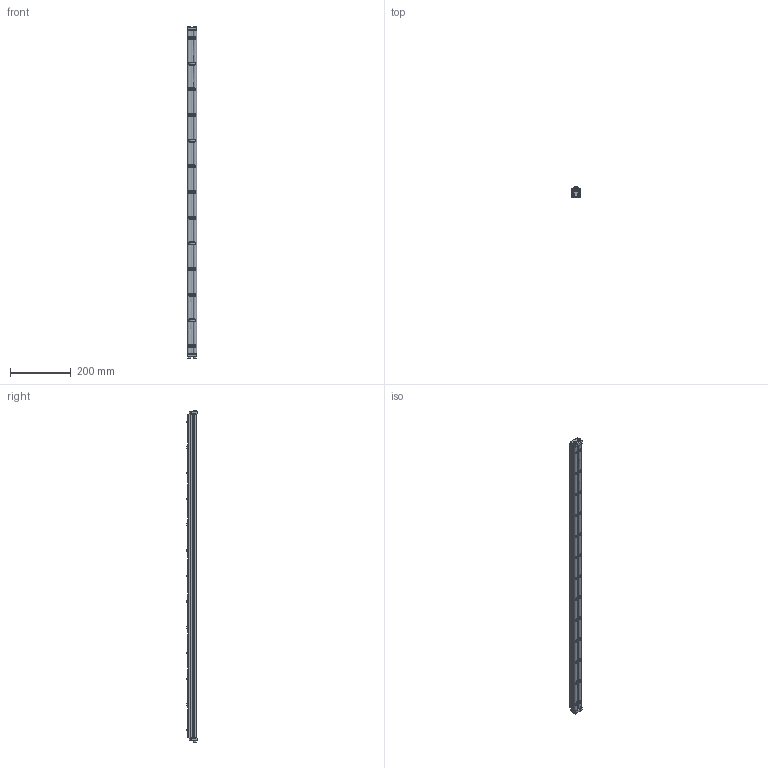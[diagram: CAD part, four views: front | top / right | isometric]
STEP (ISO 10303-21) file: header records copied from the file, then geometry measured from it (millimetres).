
FILE_DESCRIPTION((''),'2;1');
FILE_NAME('324942_ASM','2023-03-14T',('jenni.wallner'),(''),'PRO/ENGINEER BY PARAMETRIC TECHNOLOGY CORPORATION, 2012420','PRO/ENGINEER BY PARAMETRIC TECHNOLOGY CORPORATION, 2012420','');
FILE_SCHEMA(('CONFIG_CONTROL_DESIGN'));
Length unit declared in the file: inch
Products named in the file (7): 240826; 2436WW_243642; 240827_CAE; X920693M; 2410WW_CAE_241042; ASM0001_ASM; 324942_ASM
Assembly tree (22 placements, depth 3):
  324942_ASM
    ASM0001_ASM
      240826  x13
      2436WW_243642
      240827_CAE  x2
      X920693M  x4
      2410WW_CAE_241042
Bounding box: 30.88 x 33.34 x 1094.21 mm (x, y, z)
Volume: 520283.8 mm3; surface area: 308734.1 mm2
Topology: 21 solids, 21 shells, 769 faces, 2192 edges, 1447 vertices
Faces by surface type: cylinder 353, plane 256, cone 108, torus 52
Entity records: 18646 total; most frequent: CARTESIAN_POINT 4643, ORIENTED_EDGE 3064, DIRECTION 2933, EDGE_CURVE 1532, AXIS2_PLACEMENT_3D 1112, VERTEX_POINT 1023, VECTOR 709, LINE 709
